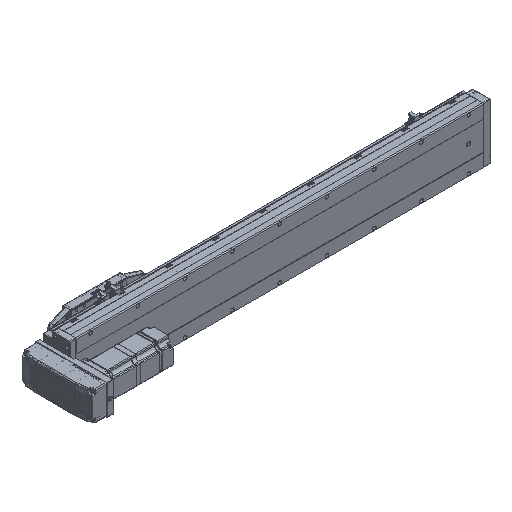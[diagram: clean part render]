
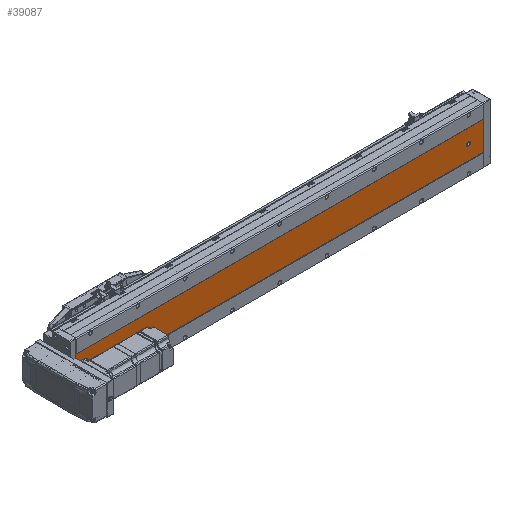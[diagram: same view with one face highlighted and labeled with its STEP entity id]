
A CAD part, isometric view. The second image highlights one B-rep face of the part: STEP entity #39087.
In plain terms, the highlighted planar face has unit normal (0, -1, 0).
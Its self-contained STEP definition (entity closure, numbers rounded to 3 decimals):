
#1428 = EDGE_CURVE ( 'NONE', #40597, #60570, #71663, .T. ) ;
#2540 = FACE_OUTER_BOUND ( 'NONE', #8669, .T. ) ;
#2771 = EDGE_CURVE ( 'NONE', #60570, #40597, #60006, .T. ) ;
#3861 = DIRECTION ( 'NONE',  ( 0., 0., 1. ) ) ;
#5660 = EDGE_LOOP ( 'NONE', ( #12668, #36443 ) ) ;
#8669 = EDGE_LOOP ( 'NONE', ( #46598, #65284, #25762, #76506 ) ) ;
#9186 = PLANE ( 'NONE',  #55144 ) ;
#9231 = ORIENTED_EDGE ( 'NONE', *, *, #45832, .T. ) ;
#9279 = LINE ( 'NONE', #71913, #70806 ) ;
#10937 = EDGE_CURVE ( 'NONE', #18880, #62848, #14969, .T. ) ;
#11150 = CARTESIAN_POINT ( 'NONE',  ( -39.892, -52.848, 827.5 ) ) ;
#11480 = DIRECTION ( 'NONE',  ( 0., 1., 0. ) ) ;
#12668 = ORIENTED_EDGE ( 'NONE', *, *, #1428, .T. ) ;
#13419 = DIRECTION ( 'NONE',  ( 0., 0., 1. ) ) ;
#14300 = DIRECTION ( 'NONE',  ( 0., 0., 1. ) ) ;
#14389 = CIRCLE ( 'NONE', #58086, 3.5 ) ;
#14413 = DIRECTION ( 'NONE',  ( 0., 0., -1. ) ) ;
#14969 = LINE ( 'NONE', #55054, #77503 ) ;
#15271 = CARTESIAN_POINT ( 'NONE',  ( -69.892, -52.848, 0. ) ) ;
#15491 = DIRECTION ( 'NONE',  ( 0., 0., 1. ) ) ;
#15492 = EDGE_LOOP ( 'NONE', ( #19983, #38696, #67081, #73916, #55367 ) ) ;
#16494 = VERTEX_POINT ( 'NONE', #62382 ) ;
#18256 = VERTEX_POINT ( 'NONE', #76217 ) ;
#18879 = CARTESIAN_POINT ( 'NONE',  ( -36.392, -52.848, 30. ) ) ;
#18880 = VERTEX_POINT ( 'NONE', #34235 ) ;
#19983 = ORIENTED_EDGE ( 'NONE', *, *, #60035, .T. ) ;
#20155 = DIRECTION ( 'NONE',  ( 0., 1., 0. ) ) ;
#20783 = CARTESIAN_POINT ( 'NONE',  ( -39.892, -52.848, 727.5 ) ) ;
#21030 = DIRECTION ( 'NONE',  ( 0., 1., 0. ) ) ;
#21616 = DIRECTION ( 'NONE',  ( 0., 0., 1. ) ) ;
#22281 = CARTESIAN_POINT ( 'NONE',  ( -36.392, -52.848, 32. ) ) ;
#23026 = CARTESIAN_POINT ( 'NONE',  ( -43.392, -52.848, 32. ) ) ;
#23591 = EDGE_CURVE ( 'NONE', #26969, #18256, #14389, .T. ) ;
#23747 = DIRECTION ( 'NONE',  ( 1., 0., 0. ) ) ;
#23815 = VERTEX_POINT ( 'NONE', #23026 ) ;
#24048 = AXIS2_PLACEMENT_3D ( 'NONE', #75881, #57306, #15491 ) ;
#24395 = AXIS2_PLACEMENT_3D ( 'NONE', #31011, #11480, #37911 ) ;
#24427 = LINE ( 'NONE', #59006, #48144 ) ;
#24737 = DIRECTION ( 'NONE',  ( 0., 0., -1. ) ) ;
#25762 = ORIENTED_EDGE ( 'NONE', *, *, #10937, .F. ) ;
#26063 = DIRECTION ( 'NONE',  ( 0., 1., 0. ) ) ;
#26969 = VERTEX_POINT ( 'NONE', #18879 ) ;
#28188 = AXIS2_PLACEMENT_3D ( 'NONE', #52604, #76721, #3861 ) ;
#28377 = EDGE_CURVE ( 'NONE', #62127, #40557, #49526, .T. ) ;
#28412 = LINE ( 'NONE', #50668, #51189 ) ;
#29153 = CIRCLE ( 'NONE', #28188, 3.5 ) ;
#30254 = EDGE_CURVE ( 'NONE', #63676, #26969, #53210, .T. ) ;
#30796 = CARTESIAN_POINT ( 'NONE',  ( -69.892, -52.848, 861. ) ) ;
#31011 = CARTESIAN_POINT ( 'NONE',  ( -39.892, -52.848, 30. ) ) ;
#31981 = EDGE_CURVE ( 'NONE', #74962, #66540, #9279, .T. ) ;
#34235 = CARTESIAN_POINT ( 'NONE',  ( -69.892, -52.848, 861. ) ) ;
#36443 = ORIENTED_EDGE ( 'NONE', *, *, #2771, .T. ) ;
#37505 = CARTESIAN_POINT ( 'NONE',  ( -9.892, -52.848, 861. ) ) ;
#37911 = DIRECTION ( 'NONE',  ( 0., 0., 1. ) ) ;
#38296 = DIRECTION ( 'NONE',  ( 1., 0., 0. ) ) ;
#38344 = DIRECTION ( 'NONE',  ( 0., 1., 0. ) ) ;
#38696 = ORIENTED_EDGE ( 'NONE', *, *, #30254, .T. ) ;
#38720 = EDGE_CURVE ( 'NONE', #16494, #23815, #24427, .T. ) ;
#39087 = ADVANCED_FACE ( 'NONE', ( #62258, #78444, #54705, #2540 ), #9186, .F. ) ;
#39347 = CARTESIAN_POINT ( 'NONE',  ( -69.892, -52.848, 861. ) ) ;
#40492 = DIRECTION ( 'NONE',  ( 0., 0., -1. ) ) ;
#40557 = VERTEX_POINT ( 'NONE', #51238 ) ;
#40597 = VERTEX_POINT ( 'NONE', #20783 ) ;
#42080 = EDGE_CURVE ( 'NONE', #18256, #16494, #76094, .T. ) ;
#43208 = AXIS2_PLACEMENT_3D ( 'NONE', #45220, #38344, #14300 ) ;
#43535 = CARTESIAN_POINT ( 'NONE',  ( -39.892, -52.848, 731. ) ) ;
#44489 = DIRECTION ( 'NONE',  ( 0., 0., 1. ) ) ;
#45220 = CARTESIAN_POINT ( 'NONE',  ( -39.892, -52.848, 831. ) ) ;
#45832 = EDGE_CURVE ( 'NONE', #40557, #62127, #29153, .T. ) ;
#46598 = ORIENTED_EDGE ( 'NONE', *, *, #31981, .T. ) ;
#47710 = AXIS2_PLACEMENT_3D ( 'NONE', #43535, #26063, #13419 ) ;
#47881 = DIRECTION ( 'NONE',  ( 0., 0., 1. ) ) ;
#48144 = VECTOR ( 'NONE', #47881, 1000. ) ;
#49526 = CIRCLE ( 'NONE', #43208, 3.5 ) ;
#50668 = CARTESIAN_POINT ( 'NONE',  ( -9.892, -52.848, 861. ) ) ;
#51189 = VECTOR ( 'NONE', #14413, 1000. ) ;
#51238 = CARTESIAN_POINT ( 'NONE',  ( -39.892, -52.848, 834.5 ) ) ;
#51591 = CARTESIAN_POINT ( 'NONE',  ( -9.892, -52.848, 0. ) ) ;
#52604 = CARTESIAN_POINT ( 'NONE',  ( -39.892, -52.848, 831. ) ) ;
#53210 = LINE ( 'NONE', #64587, #74033 ) ;
#54705 = FACE_BOUND ( 'NONE', #63000, .T. ) ;
#54835 = EDGE_CURVE ( 'NONE', #62848, #66540, #28412, .T. ) ;
#55054 = CARTESIAN_POINT ( 'NONE',  ( -69.892, -52.848, 861. ) ) ;
#55144 = AXIS2_PLACEMENT_3D ( 'NONE', #39347, #57894, #21616 ) ;
#55367 = ORIENTED_EDGE ( 'NONE', *, *, #38720, .T. ) ;
#56443 = CARTESIAN_POINT ( 'NONE',  ( -39.892, -52.848, 30. ) ) ;
#57306 = DIRECTION ( 'NONE',  ( 0., 1., 0. ) ) ;
#57894 = DIRECTION ( 'NONE',  ( 0., 1., 0. ) ) ;
#58086 = AXIS2_PLACEMENT_3D ( 'NONE', #56443, #20155, #44489 ) ;
#58358 = VECTOR ( 'NONE', #24737, 1000. ) ;
#59006 = CARTESIAN_POINT ( 'NONE',  ( -43.392, -52.848, 861. ) ) ;
#59837 = EDGE_CURVE ( 'NONE', #18880, #74962, #74497, .T. ) ;
#60006 = CIRCLE ( 'NONE', #47710, 3.5 ) ;
#60035 = EDGE_CURVE ( 'NONE', #23815, #63676, #74770, .T. ) ;
#60570 = VERTEX_POINT ( 'NONE', #75501 ) ;
#62127 = VERTEX_POINT ( 'NONE', #11150 ) ;
#62258 = FACE_BOUND ( 'NONE', #15492, .T. ) ;
#62382 = CARTESIAN_POINT ( 'NONE',  ( -43.392, -52.848, 30. ) ) ;
#62848 = VERTEX_POINT ( 'NONE', #37505 ) ;
#63000 = EDGE_LOOP ( 'NONE', ( #74892, #9231 ) ) ;
#63632 = DIRECTION ( 'NONE',  ( 0., 0., 1. ) ) ;
#63676 = VERTEX_POINT ( 'NONE', #22281 ) ;
#64587 = CARTESIAN_POINT ( 'NONE',  ( -36.392, -52.848, 861. ) ) ;
#65284 = ORIENTED_EDGE ( 'NONE', *, *, #54835, .F. ) ;
#66540 = VERTEX_POINT ( 'NONE', #51591 ) ;
#67081 = ORIENTED_EDGE ( 'NONE', *, *, #23591, .T. ) ;
#70806 = VECTOR ( 'NONE', #23747, 1000. ) ;
#71663 = CIRCLE ( 'NONE', #73468, 3.5 ) ;
#71913 = CARTESIAN_POINT ( 'NONE',  ( -69.892, -52.848, 0. ) ) ;
#73468 = AXIS2_PLACEMENT_3D ( 'NONE', #75601, #21030, #63632 ) ;
#73916 = ORIENTED_EDGE ( 'NONE', *, *, #42080, .T. ) ;
#74033 = VECTOR ( 'NONE', #40492, 1000. ) ;
#74497 = LINE ( 'NONE', #30796, #58358 ) ;
#74770 = CIRCLE ( 'NONE', #24048, 3.5 ) ;
#74892 = ORIENTED_EDGE ( 'NONE', *, *, #28377, .T. ) ;
#74962 = VERTEX_POINT ( 'NONE', #15271 ) ;
#75501 = CARTESIAN_POINT ( 'NONE',  ( -39.892, -52.848, 734.5 ) ) ;
#75601 = CARTESIAN_POINT ( 'NONE',  ( -39.892, -52.848, 731. ) ) ;
#75881 = CARTESIAN_POINT ( 'NONE',  ( -39.892, -52.848, 32. ) ) ;
#76094 = CIRCLE ( 'NONE', #24395, 3.5 ) ;
#76217 = CARTESIAN_POINT ( 'NONE',  ( -39.892, -52.848, 26.5 ) ) ;
#76506 = ORIENTED_EDGE ( 'NONE', *, *, #59837, .T. ) ;
#76721 = DIRECTION ( 'NONE',  ( 0., 1., 0. ) ) ;
#77503 = VECTOR ( 'NONE', #38296, 1000. ) ;
#78444 = FACE_BOUND ( 'NONE', #5660, .T. ) ;
